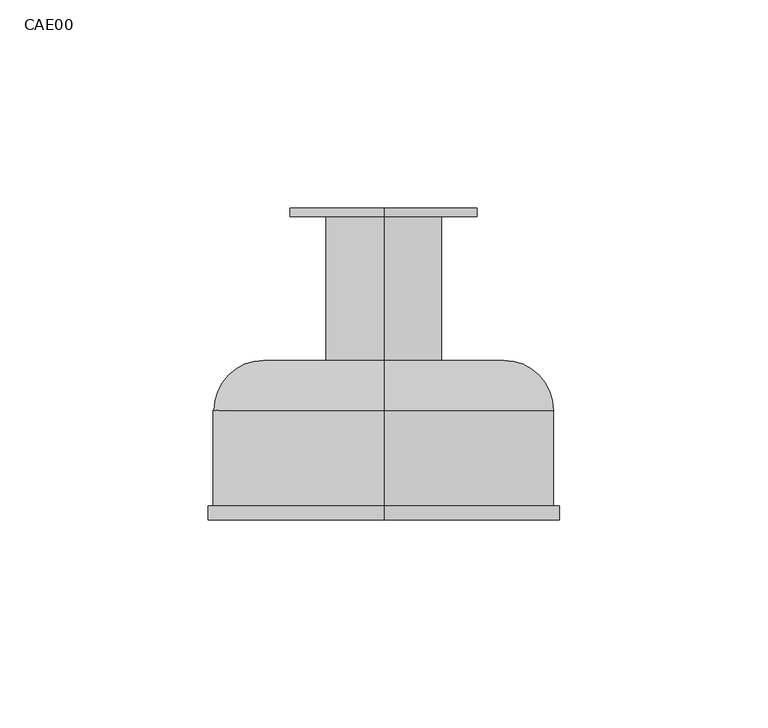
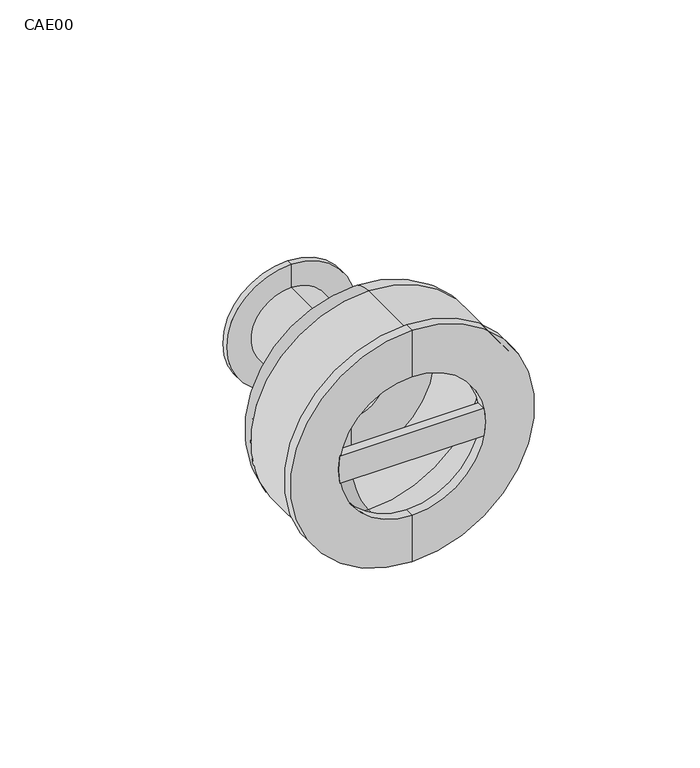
"""IFC4 building model written with IfcOpenShell, lengths in millimetres: proxy geometry, CAE00 : Pieza CAE00_Copa Anclaje."""

from ifc_helpers import new_model, si_unit, point, frame, origin, origin_2d, place, context, project, spatial, polyline, circle_curve, ellipse_curve, trimmed, segment, composite_curve, outline, extrude, source, transform, mapped, element, save
from ifc_brep_helpers import plane_surface, cylinder_surface, revolved_surface, advanced_brep


def cae00_4328ac9d(model_context):
    return source(origin(), model_context, "Body", "SolidModel", [
        extrude(outline(composite_curve([segment(trimmed(circle_curve(origin_2d(), 25.4860301), [point((5.0, -24.9907529))], [point((-5.0, -24.9907529))], False, "CARTESIAN"), True, "CONTINUOUS"), segment(polyline([(-5.0, -24.9907529), (-5.0, 24.9907529)]), True, "CONTINUOUS"), segment(trimmed(circle_curve(origin_2d(), 25.4860301), [point((-5.0, 24.9907529))], [point((5.0, 24.9907529))], False, "CARTESIAN"), True, "CONTINUOUS"), segment(polyline([(5.0, 24.9907529), (5.0, -24.9907529)]), True, "CONTINUOUS")], self_intersect=False)), frame((0.0, -3.1386879, 0.0), z_axis=(0.0, 1.0, 0.0), x_axis=(0.0, 0.0, 1.0)), (0.0, 0.0, 1.0), 3.3939749),
        advanced_brep(
        [(0.0, 0.2552871, -25.4860301), (0.0, 0.2552871, 25.4860301), (0.0, -3.1386879, 25.4860301), (0.0, -3.1386879, -25.4860301), (0.0, 0.2552871, -39.4960544), (0.0, 0.2552871, 39.4960544), (0.0, 23.2210486, -39.4960544), (0.0, 23.2210486, 39.4960544), (0.0, 33.7210486, -28.9960544), (0.0, 33.7210486, 28.9960544), (0.0, 33.7210486, -12.5), (0.0, 33.7210486, 12.5), (0.0, 71.8613121, -12.5), (0.0, 71.8613121, 12.5), (0.0, 71.8613121, -22.5), (0.0, 71.8613121, 22.5), (0.0, 69.7363121, -22.5), (0.0, 69.7363121, 22.5), (0.0, 69.7363121, -14.0), (0.0, 69.7363121, 14.0), (0.0, 35.2210486, -14.0), (0.0, 35.2210486, 14.0), (0.0, 35.2210486, -28.9960544), (0.0, 35.2210486, 28.9960544), (0.0, 23.2210486, -40.9960544), (0.0, 23.2210486, 40.9960544), (0.0, 0.2552871, -40.9960544), (0.0, 0.2552871, 40.9960544), (0.0, 0.2552871, -42.4860301), (0.0, 0.2552871, 42.4860301), (0.0, -3.1386879, -42.4860301), (0.0, -3.1386879, 42.4860301)],
        [
            (0, 1, circle_curve(frame((0.0, 0.2552871, 0.0), z_axis=(0.0, 1.0, 0.0), x_axis=(0.0, 0.0, 1.0)), 25.4860301)),
            (1, 2),
            (2, 3, circle_curve(frame((0.0, -3.1386879, 0.0), z_axis=(0.0, -1.0, 0.0), x_axis=(0.0, 0.0, 1.0)), 25.4860301)),
            (3, 0),
            (1, 0, circle_curve(frame((0.0, 0.2552871, 0.0), z_axis=(0.0, 1.0, 0.0), x_axis=(0.0, 0.0, 1.0)), 25.4860301)),
            (3, 2, circle_curve(frame((0.0, -3.1386879, 0.0), z_axis=(0.0, -1.0, 0.0), x_axis=(0.0, 0.0, 1.0)), 25.4860301)),
            (4, 5, circle_curve(frame((0.0, 0.2552871, 0.0), z_axis=(0.0, 1.0, 0.0), x_axis=(0.0, 0.0, 1.0)), 39.4960544)),
            (5, 1),
            (0, 4),
            (5, 4, circle_curve(frame((0.0, 0.2552871, 0.0), z_axis=(0.0, 1.0, 0.0), x_axis=(0.0, 0.0, 1.0)), 39.4960544)),
            (6, 7, circle_curve(frame((0.0, 23.2210486, 0.0), z_axis=(0.0, 1.0, 0.0), x_axis=(0.0, 0.0, 1.0)), 39.4960544)),
            (7, 5),
            (4, 6),
            (7, 6, circle_curve(frame((0.0, 23.2210486, 0.0), z_axis=(0.0, 1.0, 0.0), x_axis=(0.0, 0.0, 1.0)), 39.4960544)),
            (8, 9, circle_curve(frame((0.0, 33.7210486, 0.0), z_axis=(0.0, 1.0, 0.0), x_axis=(0.0, 0.0, 1.0)), 28.9960544)),
            (9, 7, circle_curve(frame((0.0, 23.2210486, 28.9960544), z_axis=(1.0, 0.0, 0.0), x_axis=(0.0, 1.0, 0.0)), 10.5)),
            (6, 8, circle_curve(frame((0.0, 23.2210486, -28.9960544), z_axis=(1.0, 0.0, 0.0), x_axis=(0.0, 1.0, 0.0)), 10.5)),
            (9, 8, circle_curve(frame((0.0, 33.7210486, 0.0), z_axis=(0.0, 1.0, 0.0), x_axis=(0.0, 0.0, 1.0)), 28.9960544)),
            (10, 11, circle_curve(frame((0.0, 33.7210486, 0.0), z_axis=(0.0, 1.0, 0.0), x_axis=(0.0, 0.0, 1.0)), 12.5)),
            (11, 9),
            (8, 10),
            (11, 10, circle_curve(frame((0.0, 33.7210486, 0.0), z_axis=(0.0, 1.0, 0.0), x_axis=(0.0, 0.0, 1.0)), 12.5)),
            (12, 13, circle_curve(frame((0.0, 71.8613121, 0.0), z_axis=(0.0, 1.0, 0.0), x_axis=(0.0, 0.0, 1.0)), 12.5)),
            (13, 11),
            (10, 12),
            (13, 12, circle_curve(frame((0.0, 71.8613121, 0.0), z_axis=(0.0, 1.0, 0.0), x_axis=(0.0, 0.0, 1.0)), 12.5)),
            (14, 15, circle_curve(frame((0.0, 71.8613121, 0.0), z_axis=(0.0, 1.0, 0.0), x_axis=(0.0, 0.0, 1.0)), 22.5)),
            (15, 13),
            (12, 14),
            (15, 14, circle_curve(frame((0.0, 71.8613121, 0.0), z_axis=(0.0, 1.0, 0.0), x_axis=(0.0, 0.0, 1.0)), 22.5)),
            (16, 17, circle_curve(frame((0.0, 69.7363121, 0.0), z_axis=(0.0, 1.0, 0.0), x_axis=(0.0, 0.0, 1.0)), 22.5)),
            (17, 15),
            (14, 16),
            (17, 16, circle_curve(frame((0.0, 69.7363121, 0.0), z_axis=(0.0, 1.0, 0.0), x_axis=(0.0, 0.0, 1.0)), 22.5)),
            (18, 19, circle_curve(frame((0.0, 69.7363121, 0.0), z_axis=(0.0, 1.0, 0.0), x_axis=(0.0, 0.0, 1.0)), 14.0)),
            (19, 17),
            (16, 18),
            (19, 18, circle_curve(frame((0.0, 69.7363121, 0.0), z_axis=(0.0, 1.0, 0.0), x_axis=(0.0, 0.0, 1.0)), 14.0)),
            (20, 21, circle_curve(frame((0.0, 35.2210486, 0.0), z_axis=(0.0, 1.0, 0.0), x_axis=(0.0, 0.0, 1.0)), 14.0)),
            (21, 19),
            (18, 20),
            (21, 20, circle_curve(frame((0.0, 35.2210486, 0.0), z_axis=(0.0, 1.0, 0.0), x_axis=(0.0, 0.0, 1.0)), 14.0)),
            (22, 23, circle_curve(frame((0.0, 35.2210486, 0.0), z_axis=(0.0, 1.0, 0.0), x_axis=(0.0, 0.0, 1.0)), 28.9960544)),
            (23, 21),
            (20, 22),
            (23, 22, circle_curve(frame((0.0, 35.2210486, 0.0), z_axis=(0.0, 1.0, 0.0), x_axis=(0.0, 0.0, 1.0)), 28.9960544)),
            (24, 25, circle_curve(frame((0.0, 23.2210486, 0.0), z_axis=(0.0, 1.0, 0.0), x_axis=(0.0, 0.0, 1.0)), 40.9960544)),
            (25, 23, circle_curve(frame((0.0, 23.2210486, 28.9960544), z_axis=(-1.0, 0.0, 0.0), x_axis=(0.0, 1.0, 0.0)), 12.0)),
            (22, 24, circle_curve(frame((0.0, 23.2210486, -28.9960544), z_axis=(-1.0, 0.0, 0.0), x_axis=(0.0, 1.0, 0.0)), 12.0)),
            (25, 24, circle_curve(frame((0.0, 23.2210486, 0.0), z_axis=(0.0, 1.0, 0.0), x_axis=(0.0, 0.0, 1.0)), 40.9960544)),
            (26, 27, circle_curve(frame((0.0, 0.2552871, 0.0), z_axis=(0.0, 1.0, 0.0), x_axis=(0.0, 0.0, 1.0)), 40.9960544)),
            (27, 25),
            (24, 26),
            (27, 26, circle_curve(frame((0.0, 0.2552871, 0.0), z_axis=(0.0, 1.0, 0.0), x_axis=(0.0, 0.0, 1.0)), 40.9960544)),
            (28, 29, circle_curve(frame((0.0, 0.2552871, 0.0), z_axis=(0.0, 1.0, 0.0), x_axis=(0.0, 0.0, 1.0)), 42.4860301)),
            (29, 27),
            (26, 28),
            (29, 28, circle_curve(frame((0.0, 0.2552871, 0.0), z_axis=(0.0, 1.0, 0.0), x_axis=(0.0, 0.0, 1.0)), 42.4860301)),
            (30, 31, circle_curve(frame((0.0, -3.1386879, 0.0), z_axis=(0.0, 1.0, 0.0), x_axis=(0.0, 0.0, 1.0)), 42.4860301)),
            (31, 29),
            (28, 30),
            (31, 30, circle_curve(frame((0.0, -3.1386879, 0.0), z_axis=(0.0, 1.0, 0.0), x_axis=(0.0, 0.0, 1.0)), 42.4860301)),
            (2, 31),
            (30, 3),
        ],
        [
            revolved_surface(polyline([(0.0, -3.1386879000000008, 25.4860301), (0.0, 0.2552871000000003, 25.4860301)]), (0.0, -14.5095329, 0.0), (0.0, -1.0, 0.0)),
            plane_surface(frame((0.0, 0.2552871, 0.0), z_axis=(0.0, 1.0, 0.0), x_axis=(0.0, 0.0, 1.0))),
            revolved_surface(polyline([(0.0, 0.2552871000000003, 39.4960544), (0.0, 23.2210486, 39.4960544)]), (0.0, -14.5095329, 0.0), (0.0, -1.0, 0.0)),
            revolved_surface(trimmed(ellipse_curve(frame((0.0, 23.2210486, 28.9960544), z_axis=(-1.0, 0.0, 0.0), x_axis=(0.0, 1.0, 0.0)), 10.5, 10.5), [point((0.0, 23.2210486, 39.4960544))], [point((0.0, 33.7210486, 28.9960544))], True, "CARTESIAN"), (0.0, -14.5095329, 0.0), (0.0, -1.0, 0.0)),
            plane_surface(frame((0.0, 33.7210486, 0.0), z_axis=(0.0, -1.0, 0.0), x_axis=(0.0, 0.0, 1.0))),
            revolved_surface(polyline([(0.0, 33.7210486, 12.5), (0.0, 71.8613121, 12.5)]), (0.0, -14.5095329, 0.0), (0.0, -1.0, 0.0)),
            plane_surface(frame((0.0, 71.8613121, 0.0), z_axis=(0.0, 1.0, 0.0), x_axis=(0.0, 0.0, 1.0))),
            cylinder_surface(frame((0.0, -14.5095329, 0.0), z_axis=(0.0, -1.0, 0.0), x_axis=(0.0, 0.0, 1.0)), 22.5),
            plane_surface(frame((0.0, 69.7363121, 0.0), z_axis=(0.0, -1.0, 0.0), x_axis=(0.0, 0.0, 1.0))),
            cylinder_surface(frame((0.0, -14.5095329, 0.0), z_axis=(0.0, -1.0, 0.0), x_axis=(0.0, 0.0, 1.0)), 14.0),
            plane_surface(frame((0.0, 35.2210486, 0.0), z_axis=(0.0, 1.0, 0.0), x_axis=(0.0, 0.0, 1.0))),
            revolved_surface(trimmed(ellipse_curve(frame((0.0, 23.2210486, 28.9960544), z_axis=(1.0, 0.0, 0.0), x_axis=(0.0, 1.0, 0.0)), 12.0, 12.0), [point((0.0, 35.2210486, 28.9960544))], [point((0.0, 23.2210486, 40.9960544))], True, "CARTESIAN"), (0.0, -14.5095329, 0.0), (0.0, -1.0, 0.0)),
            cylinder_surface(frame((0.0, -14.5095329, 0.0), z_axis=(0.0, -1.0, 0.0), x_axis=(0.0, 0.0, 1.0)), 40.9960544),
            cylinder_surface(frame((0.0, -14.5095329, 0.0), z_axis=(0.0, -1.0, 0.0), x_axis=(0.0, 0.0, 1.0)), 42.4860301),
            plane_surface(frame((0.0, -3.1386879, 0.0), z_axis=(0.0, -1.0, 0.0), x_axis=(0.0, 0.0, 1.0))),
        ],
        [
            (0, [[1, 2, 3, 4]]),
            (0, [[5, -4, 6, -2]]),
            (1, [[7, 8, -1, 9]]),
            (1, [[10, -9, -5, -8]]),
            (2, [[11, 12, -7, 13]]),
            (2, [[14, -13, -10, -12]]),
            (3, [[15, 16, -11, 17]]),
            (3, [[18, -17, -14, -16]]),
            (4, [[19, 20, -15, 21]]),
            (4, [[22, -21, -18, -20]]),
            (5, [[23, 24, -19, 25]]),
            (5, [[26, -25, -22, -24]]),
            (6, [[27, 28, -23, 29]]),
            (6, [[30, -29, -26, -28]]),
            (7, [[31, 32, -27, 33]]),
            (7, [[34, -33, -30, -32]]),
            (8, [[35, 36, -31, 37]]),
            (8, [[38, -37, -34, -36]]),
            (9, [[39, 40, -35, 41]]),
            (9, [[42, -41, -38, -40]]),
            (10, [[43, 44, -39, 45]]),
            (10, [[46, -45, -42, -44]]),
            (11, [[47, 48, -43, 49]]),
            (11, [[50, -49, -46, -48]]),
            (12, [[51, 52, -47, 53]]),
            (12, [[54, -53, -50, -52]]),
            (1, [[55, 56, -51, 57]]),
            (1, [[58, -57, -54, -56]]),
            (13, [[59, 60, -55, 61]]),
            (13, [[62, -61, -58, -60]]),
            (14, [[-3, 63, -59, 64]]),
            (14, [[-6, -64, -62, -63]]),
        ],
    ),
    ])


if __name__ == "__main__":
    model = new_model("IFC4")
    model_context = context("Model", 3, world=origin())
    ifc_project = project(units=[si_unit("LENGTHUNIT", "METRE", prefix="MILLI")], contexts=[model_context])
    site = spatial("IfcSite", under=ifc_project)
    building = spatial("IfcBuilding", under=site)
    placement = place(None, origin())
    cae00_shape = cae00_4328ac9d(model_context)
    element("IfcBuildingElementProxy", 1, Name="CAE00 : Pieza CAE00_Copa Anclaje", ObjectType="CAE00 : Pieza CAE00_Copa Anclaje", at=placement, inside=building, context=model_context, shape_type="MappedRepresentation", body=[
        mapped(cae00_shape, transform((0.0, 0.0, 0.0), x_axis=(1.0, 0.0, 0.0), y_axis=(0.0, 1.0, 0.0), z_axis=(0.0, 0.0, 1.0))),
    ])
    save(model, "model.ifc")
